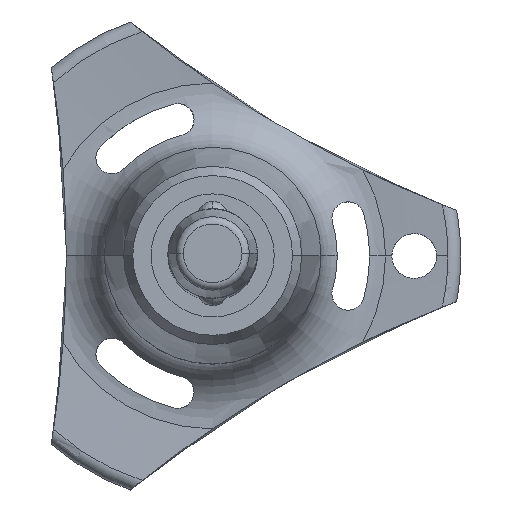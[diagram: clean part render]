
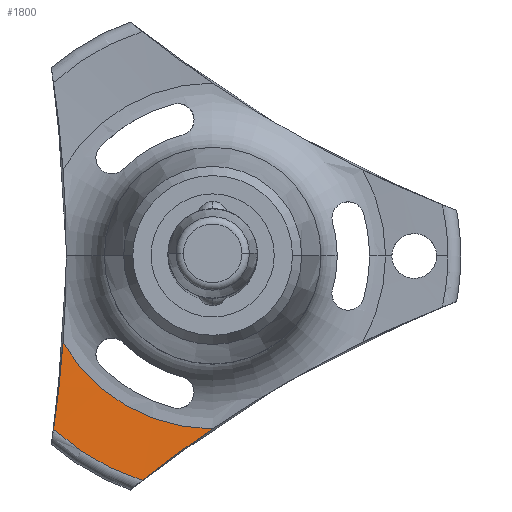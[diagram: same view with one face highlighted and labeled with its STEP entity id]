
A CAD part, top view. The second image highlights one B-rep face of the part: STEP entity #1800.
In plain terms, the highlighted conical face has half-angle 85.408 degrees and reference radius 15.736 mm.
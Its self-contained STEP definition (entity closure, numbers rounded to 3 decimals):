
#14 = DIRECTION ( 'NONE',  ( 1., 0., 0. ) ) ;
#124 = CONICAL_SURFACE ( 'NONE', #837, 15.736, 1.491 ) ;
#185 = VERTEX_POINT ( 'NONE', #1370 ) ;
#299 = CARTESIAN_POINT ( 'NONE',  ( -1.625, -12.66, -91.699 ) ) ;
#338 = ORIENTED_EDGE ( 'NONE', *, *, #473, .F. ) ;
#340 = CARTESIAN_POINT ( 'NONE',  ( -0.019, -11.57, -91.787 ) ) ;
#473 = EDGE_CURVE ( 'NONE', #185, #2197, #2654, .T. ) ;
#532 = EDGE_CURVE ( 'NONE', #1124, #2197, #1453, .T. ) ;
#641 = EDGE_CURVE ( 'NONE', #1124, #1658, #1284, .T. ) ;
#670 = CARTESIAN_POINT ( 'NONE',  ( 0., 0., -91.787 ) ) ;
#695 = CARTESIAN_POINT ( 'NONE',  ( -10.644, -11.59, -91.453 ) ) ;
#710 = CARTESIAN_POINT ( 'NONE',  ( -10.152, -7.74, -91.699 ) ) ;
#716 = ORIENTED_EDGE ( 'NONE', *, *, #2780, .F. ) ;
#837 = AXIS2_PLACEMENT_3D ( 'NONE', #1277, #1089, #14 ) ;
#982 = AXIS2_PLACEMENT_3D ( 'NONE', #2428, #1318, #2618 ) ;
#989 = FACE_OUTER_BOUND ( 'NONE', #2249, .T. ) ;
#1038 = CARTESIAN_POINT ( 'NONE',  ( -0.019, -11.57, -91.787 ) ) ;
#1089 = DIRECTION ( 'NONE',  ( 0., 0., 1. ) ) ;
#1124 = VERTEX_POINT ( 'NONE', #1038 ) ;
#1158 = CARTESIAN_POINT ( 'NONE',  ( -3.192, -13.809, -91.581 ) ) ;
#1277 = CARTESIAN_POINT ( 'NONE',  ( 0., 0., -91.453 ) ) ;
#1284 = B_SPLINE_CURVE_WITH_KNOTS ( 'NONE', 3,
 ( #340, #299, #1158, #2681 ),
 .UNSPECIFIED., .F., .F.,
 ( 4, 4 ),
 ( 0.017, 0.023 ),
 .UNSPECIFIED. ) ;
#1318 = DIRECTION ( 'NONE',  ( 0., 0., -1. ) ) ;
#1354 = CARTESIAN_POINT ( 'NONE',  ( -4.715, -15.013, -91.453 ) ) ;
#1370 = CARTESIAN_POINT ( 'NONE',  ( -10.644, -11.59, -91.453 ) ) ;
#1453 = CIRCLE ( 'NONE', #1458, 11.57 ) ;
#1458 = AXIS2_PLACEMENT_3D ( 'NONE', #670, #2204, #1986 ) ;
#1479 = CIRCLE ( 'NONE', #982, 15.736 ) ;
#1539 = CARTESIAN_POINT ( 'NONE',  ( -10.011, -5.801, -91.787 ) ) ;
#1588 = ORIENTED_EDGE ( 'NONE', *, *, #641, .F. ) ;
#1658 = VERTEX_POINT ( 'NONE', #1354 ) ;
#1800 = ADVANCED_FACE ( 'NONE', ( #989 ), #124, .F. ) ;
#1858 = ORIENTED_EDGE ( 'NONE', *, *, #532, .T. ) ;
#1986 = DIRECTION ( 'NONE',  ( -1., 0., 0. ) ) ;
#2197 = VERTEX_POINT ( 'NONE', #2364 ) ;
#2204 = DIRECTION ( 'NONE',  ( 0., 0., -1. ) ) ;
#2249 = EDGE_LOOP ( 'NONE', ( #1588, #1858, #338, #716 ) ) ;
#2364 = CARTESIAN_POINT ( 'NONE',  ( -10.011, -5.801, -91.787 ) ) ;
#2428 = CARTESIAN_POINT ( 'NONE',  ( 0., 0., -91.453 ) ) ;
#2618 = DIRECTION ( 'NONE',  ( -1., 0., 0. ) ) ;
#2628 = CARTESIAN_POINT ( 'NONE',  ( -10.363, -9.669, -91.581 ) ) ;
#2654 = B_SPLINE_CURVE_WITH_KNOTS ( 'NONE', 3,
 ( #695, #2628, #710, #1539 ),
 .UNSPECIFIED., .F., .F.,
 ( 4, 4 ),
 ( 0., 0.006 ),
 .UNSPECIFIED. ) ;
#2681 = CARTESIAN_POINT ( 'NONE',  ( -4.715, -15.013, -91.453 ) ) ;
#2780 = EDGE_CURVE ( 'NONE', #1658, #185, #1479, .T. ) ;
